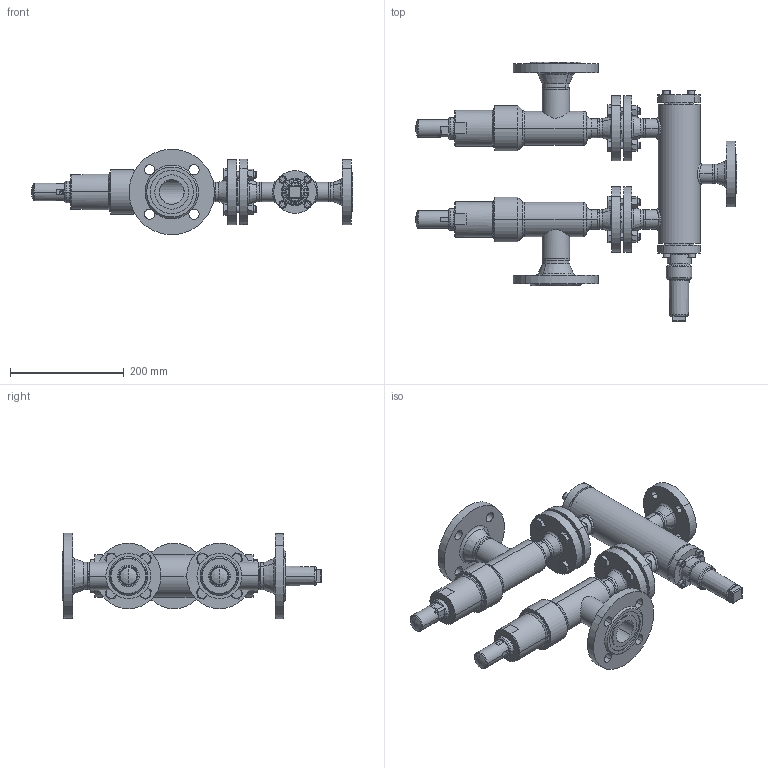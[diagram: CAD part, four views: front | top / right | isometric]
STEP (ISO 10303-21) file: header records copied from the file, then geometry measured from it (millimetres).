
FILE_DESCRIPTION (( 'STEP AP214' ), '1' );
FILE_NAME ('WVB-SVAA_1A5FL_DN25_DIN-FL.STEP', '2010-09-09T08:15:54', ( 'Eckhard Grams' ), ( 'AWP Kälte Klima Armaturen GmbH' ), 'SwSTEP 2.0', 'SolidWorks 2002296', '' );
FILE_SCHEMA (( 'AUTOMOTIVE_DESIGN' ));
Length unit declared in the file: millimetre
Products named in the file (30): WVB-SVAA_1A5FL_DN25_DIN-FL; WVB23020D12-DN025_DIN-FL-N-F_PS40_Standard; WVB-R23000E13_Deck+Schr-DN25-32_Standard; Deckel23000E13-DN25-32_Standard; AVB16300E13_Deck+Schr-DN25-32_Standard; Deckel16300E13-DN25-32_Standard; Zylinderschraube-DIN912_M 8x  25; Geh,kpl24020E12-DN25_DIN-FL-N-F_PS40_Standard; Flansch-DIN2635-Feder_PS40_DIN-Flansch-DN025_PS40-Feder; Geh,kpl24000E12_DN25_R1_PS40_Standard; Rohrstutzen-24000E12-DN25_R1_Standard; Gehäuse24000E12-DN25_R1_PS40_Standard; Schw-24000E12-DN25_Standard; beadC4020-12-3_Standard; beadC4020-12-2_Standard; beadC4020-12-1_Standard; Kappe 16402-13_DN10-32 (M36x2)_Standard; SVAA 45620D12-DN25(40)_DIN; Gehkpl 45720E12-5030001; Geh 45700E12-5034004_DN25; Flansch-DIN2635-Nut_PS40_DIN-Flansch-DN025_PS40-Nut; Flansch-DIN2635-Nut_PS40_DIN-Flansch-DN040_PS40-Nut; Rohrstutzen-A 45700E12-5036004_DN25(40)_Standard; bead Geh,kpl 45720E12-2_Standard; bead Geh,kpl 45720E12-1_Standard; Haube 45700E11-5260003_DN20-25; Kappe SVA-SVU-ORV_DN10-40 (M27x1,5)_Standard; Flachdichtg-Alu-DN20-25; Sechskantschraube-DIN933_M12x 50; Sechskantmutter-DIN934_M12
Assembly tree (57 placements, depth 5):
  WVB-SVAA_1A5FL_DN25_DIN-FL
    Sechskantschraube-DIN933_M12x 50  x8
    Sechskantmutter-DIN934_M12  x8
    SVAA 45620D12-DN25(40)_DIN  x2
      Haube 45700E11-5260003_DN20-25
      Kappe SVA-SVU-ORV_DN10-40 (M27x1,5)_Standard
      Flachdichtg-Alu-DN20-25
      Gehkpl 45720E12-5030001
        Geh 45700E12-5034004_DN25
        bead Geh,kpl 45720E12-1_Standard
        Flansch-DIN2635-Nut_PS40_DIN-Flansch-DN025_PS40-Nut
        Rohrstutzen-A 45700E12-5036004_DN25(40)_Standard
        Flansch-DIN2635-Nut_PS40_DIN-Flansch-DN040_PS40-Nut
        bead Geh,kpl 45720E12-2_Standard
    WVB23020D12-DN025_DIN-FL-N-F_PS40_Standard
      Geh,kpl24020E12-DN25_DIN-FL-N-F_PS40_Standard
        beadC4020-12-3_Standard
        Flansch-DIN2635-Nut_PS40_DIN-Flansch-DN025_PS40-Nut
        beadC4020-12-1_Standard
        Flansch-DIN2635-Feder_PS40_DIN-Flansch-DN025_PS40-Feder  x2
        Geh,kpl24000E12_DN25_R1_PS40_Standard
          Rohrstutzen-24000E12-DN25_R1_Standard  x3
          Gehäuse24000E12-DN25_R1_PS40_Standard
          Schw-24000E12-DN25_Standard  x3
        beadC4020-12-2_Standard
      WVB-R23000E13_Deck+Schr-DN25-32_Standard
        Zylinderschraube-DIN912_M 8x  25  x4
        Deckel23000E13-DN25-32_Standard
      AVB16300E13_Deck+Schr-DN25-32_Standard
        Zylinderschraube-DIN912_M 8x  25  x4
        Deckel16300E13-DN25-32_Standard
      Kappe 16402-13_DN10-32 (M36x2)_Standard
Bounding box: 564 x 455.5 x 149.43 mm (x, y, z)
Volume: 3139883.9 mm3; surface area: 778867 mm2
Topology: 58 solids, 58 shells, 1347 faces, 3153 edges, 1973 vertices
Faces by surface type: cylinder 500, plane 379, cone 311, torus 95, bspline 54, sphere 8
Entity records: 42068 total; most frequent: CARTESIAN_POINT 26332, DIRECTION 2905, ORIENTED_EDGE 2754, EDGE_CURVE 1377, AXIS2_PLACEMENT_3D 1235, VERTEX_POINT 864, EDGE_LOOP 689, CIRCLE 624
